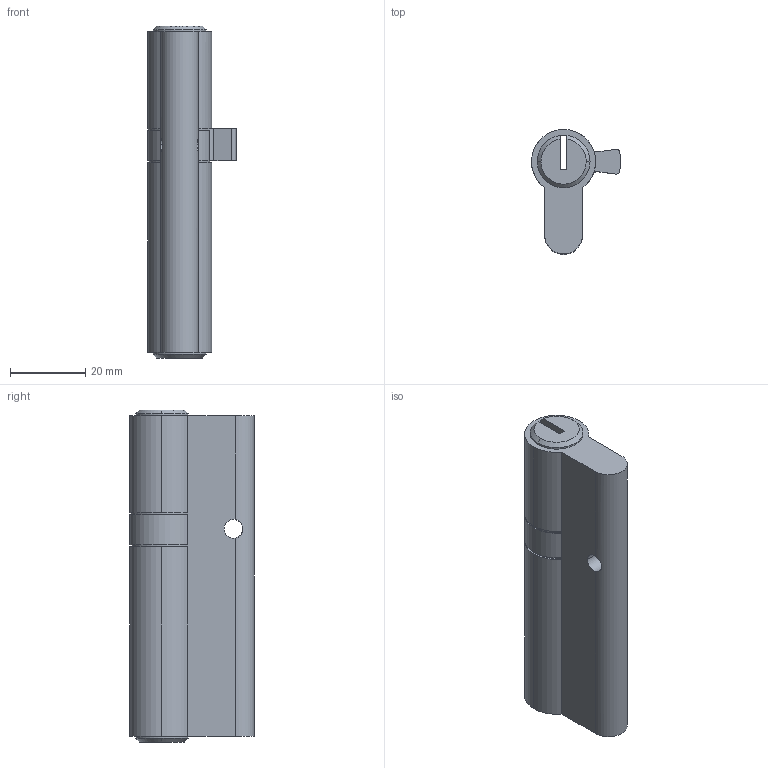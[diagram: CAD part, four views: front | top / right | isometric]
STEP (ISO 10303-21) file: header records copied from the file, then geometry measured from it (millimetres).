
FILE_DESCRIPTION (( 'STEP AP214' ), '1' );
FILE_NAME ('TPL-H-EU-520-L 29Oct2024.STEP', '2024-10-29T22:27:19', ( '' ), ( '' ), 'SwSTEP 2.0', 'SolidWorks 2023', '' );
FILE_SCHEMA (( 'AUTOMOTIVE_DESIGN' ));
Length unit declared in the file: millimetre
Products named in the file (1): TPL-H-EU-520-L 29Oct2024
Bounding box: 23.58 x 33 x 88 mm (x, y, z)
Volume: 31535.1 mm3; surface area: 10211.6 mm2
Topology: 1 solids, 1 shells, 51 faces, 141 edges, 88 vertices
Faces by surface type: cylinder 29, plane 16, cone 6
Entity records: 1740 total; most frequent: CARTESIAN_POINT 357, DIRECTION 307, ORIENTED_EDGE 282, EDGE_CURVE 141, AXIS2_PLACEMENT_3D 122, VERTEX_POINT 88, CIRCLE 70, VECTOR 63
